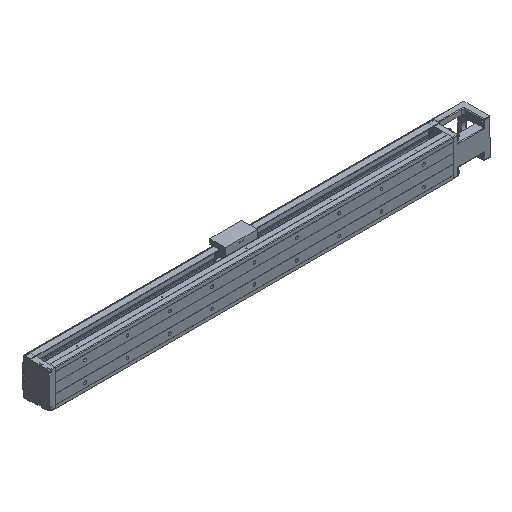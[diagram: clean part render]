
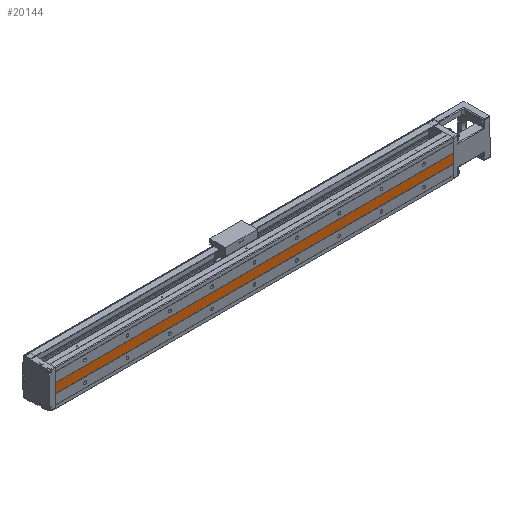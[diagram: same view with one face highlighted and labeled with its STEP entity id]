
A CAD part, isometric view. The second image highlights one B-rep face of the part: STEP entity #20144.
In plain terms, the highlighted planar face has unit normal (0, -1, 0).
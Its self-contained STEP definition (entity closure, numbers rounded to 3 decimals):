
#234 = CARTESIAN_POINT ( 'NONE',  ( 420., -31.5, 11. ) ) ;
#386 = FACE_OUTER_BOUND ( 'NONE', #23417, .T. ) ;
#1518 = CARTESIAN_POINT ( 'NONE',  ( 420., -31.5, -11. ) ) ;
#2459 = EDGE_CURVE ( 'NONE', #10383, #7479, #22219, .T. ) ;
#2693 = VECTOR ( 'NONE', #24177, 1000. ) ;
#2842 = VECTOR ( 'NONE', #6873, 1000. ) ;
#3891 = PLANE ( 'NONE',  #12979 ) ;
#4252 = CARTESIAN_POINT ( 'NONE',  ( -320., -31.5, 11. ) ) ;
#4752 = ORIENTED_EDGE ( 'NONE', *, *, #5139, .F. ) ;
#5139 = EDGE_CURVE ( 'NONE', #7479, #14164, #12687, .T. ) ;
#5227 = VECTOR ( 'NONE', #10666, 1000. ) ;
#5461 = ORIENTED_EDGE ( 'NONE', *, *, #2459, .F. ) ;
#6873 = DIRECTION ( 'NONE',  ( 1., 0., 0. ) ) ;
#6924 = EDGE_CURVE ( 'NONE', #15151, #14164, #13800, .T. ) ;
#7479 = VERTEX_POINT ( 'NONE', #234 ) ;
#8364 = ORIENTED_EDGE ( 'NONE', *, *, #27376, .T. ) ;
#8905 = CARTESIAN_POINT ( 'NONE',  ( -320., -31.5, -11. ) ) ;
#9015 = CARTESIAN_POINT ( 'NONE',  ( -520., -31.5, 11. ) ) ;
#10383 = VERTEX_POINT ( 'NONE', #9015 ) ;
#10666 = DIRECTION ( 'NONE',  ( 1., 0., 0. ) ) ;
#12687 = LINE ( 'NONE', #13137, #24416 ) ;
#12979 = AXIS2_PLACEMENT_3D ( 'NONE', #1518, #16760, #20863 ) ;
#13019 = LINE ( 'NONE', #23989, #2693 ) ;
#13137 = CARTESIAN_POINT ( 'NONE',  ( 420., -31.5, 11. ) ) ;
#13800 = LINE ( 'NONE', #8905, #2842 ) ;
#14164 = VERTEX_POINT ( 'NONE', #17646 ) ;
#15151 = VERTEX_POINT ( 'NONE', #20864 ) ;
#16158 = ORIENTED_EDGE ( 'NONE', *, *, #6924, .T. ) ;
#16760 = DIRECTION ( 'NONE',  ( 0., -1., 0. ) ) ;
#17646 = CARTESIAN_POINT ( 'NONE',  ( 420., -31.5, -11. ) ) ;
#20144 = ADVANCED_FACE ( 'NONE', ( #386 ), #3891, .T. ) ;
#20863 = DIRECTION ( 'NONE',  ( -1., 0., 0. ) ) ;
#20864 = CARTESIAN_POINT ( 'NONE',  ( -520., -31.5, -11. ) ) ;
#22219 = LINE ( 'NONE', #4252, #5227 ) ;
#23417 = EDGE_LOOP ( 'NONE', ( #8364, #16158, #4752, #5461 ) ) ;
#23989 = CARTESIAN_POINT ( 'NONE',  ( -520., -31.5, -5.5 ) ) ;
#24069 = DIRECTION ( 'NONE',  ( 0., 0., -1. ) ) ;
#24177 = DIRECTION ( 'NONE',  ( 0., 0., -1. ) ) ;
#24416 = VECTOR ( 'NONE', #24069, 1000. ) ;
#27376 = EDGE_CURVE ( 'NONE', #10383, #15151, #13019, .T. ) ;
